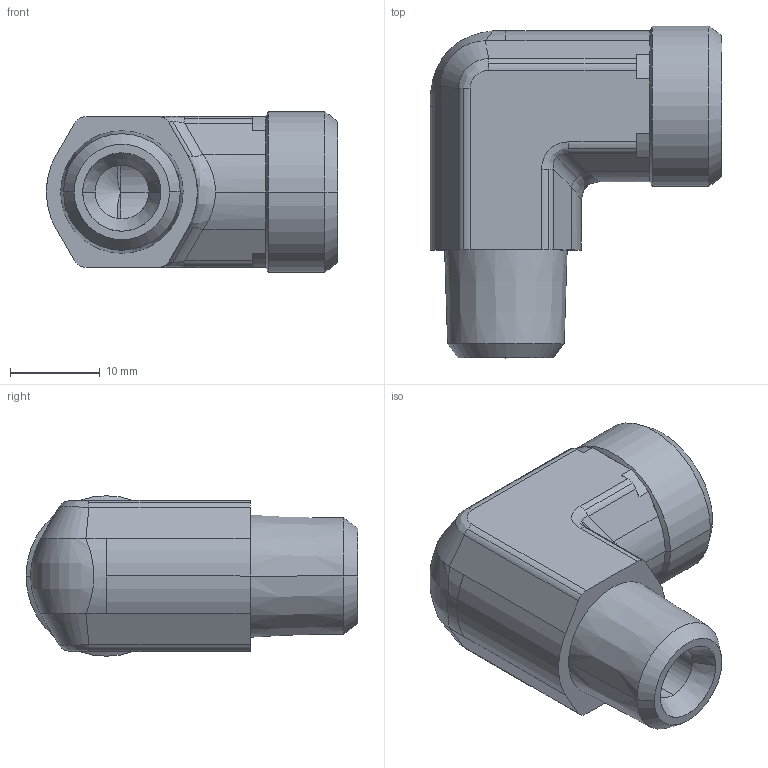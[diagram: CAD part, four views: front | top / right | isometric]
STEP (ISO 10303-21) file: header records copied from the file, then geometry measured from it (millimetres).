
FILE_DESCRIPTION((''),'2;1');
FILE_NAME('102031.stp','2007-10-30T16:35:50',(''),(''),'AutoCAD STEP 2000i','AutoCAD 2000i',', , ');
FILE_SCHEMA(('CONFIG_CONTROL_DESIGN'));
Length unit declared in the file: millimetre
Products named in the file (2): 102031.0; 3090#0
Assembly tree (1 placements, depth 2):
  102031.0
    3090#0
Bounding box: 32.4 x 36.92 x 17.85 mm (x, y, z)
Volume: 7963.8 mm3; surface area: 4290.6 mm2
Topology: 1 solids, 1 shells, 95 faces, 234 edges, 143 vertices
Faces by surface type: cylinder 40, plane 26, cone 15, bspline 14
Entity records: 3720 total; most frequent: CARTESIAN_POINT 1356, DIRECTION 495, ORIENTED_EDGE 468, EDGE_CURVE 234, AXIS2_PLACEMENT_3D 198, VERTEX_POINT 143, CIRCLE 105, VECTOR 99
